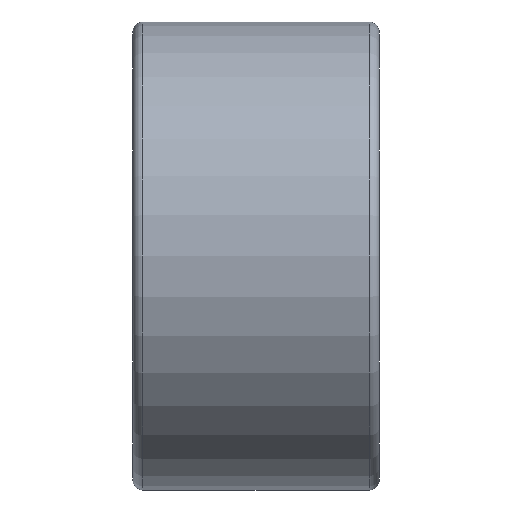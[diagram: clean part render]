
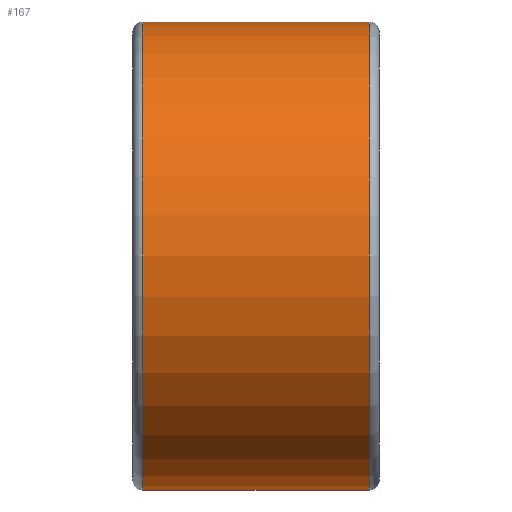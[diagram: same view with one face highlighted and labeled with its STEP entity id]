
A CAD part, front view. The second image highlights one B-rep face of the part: STEP entity #167.
In plain terms, the highlighted cylindrical face has radius 47.5 mm (diameter 95 mm), a full revolution.
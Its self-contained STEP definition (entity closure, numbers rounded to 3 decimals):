
#26=CYLINDRICAL_SURFACE('',#196,47.5);
#39=FACE_BOUND('',#80,.T.);
#53=FACE_OUTER_BOUND('',#79,.T.);
#79=EDGE_LOOP('',(#149));
#80=EDGE_LOOP('',(#150));
#95=CIRCLE('',#195,47.5);
#96=CIRCLE('',#197,47.5);
#109=VERTEX_POINT('',#294);
#110=VERTEX_POINT('',#297);
#123=EDGE_CURVE('',#109,#109,#95,.T.);
#124=EDGE_CURVE('',#110,#110,#96,.T.);
#149=ORIENTED_EDGE('',*,*,#123,.T.);
#150=ORIENTED_EDGE('',*,*,#124,.F.);
#167=ADVANCED_FACE('',(#53,#39),#26,.T.);
#195=AXIS2_PLACEMENT_3D('',#295,#249,#250);
#196=AXIS2_PLACEMENT_3D('',#296,#251,#252);
#197=AXIS2_PLACEMENT_3D('',#298,#253,#254);
#249=DIRECTION('center_axis',(-1.,0.,0.));
#250=DIRECTION('ref_axis',(0.,0.,1.));
#251=DIRECTION('center_axis',(-1.,0.,0.));
#252=DIRECTION('ref_axis',(0.,-1.,0.));
#253=DIRECTION('center_axis',(-1.,0.,0.));
#254=DIRECTION('ref_axis',(0.,0.,1.));
#294=CARTESIAN_POINT('',(35.972,2.19,0.));
#295=CARTESIAN_POINT('Origin',(35.972,49.69,0.));
#296=CARTESIAN_POINT('Origin',(12.972,49.69,0.));
#297=CARTESIAN_POINT('',(-10.028,2.19,0.));
#298=CARTESIAN_POINT('Origin',(-10.028,49.69,0.));
